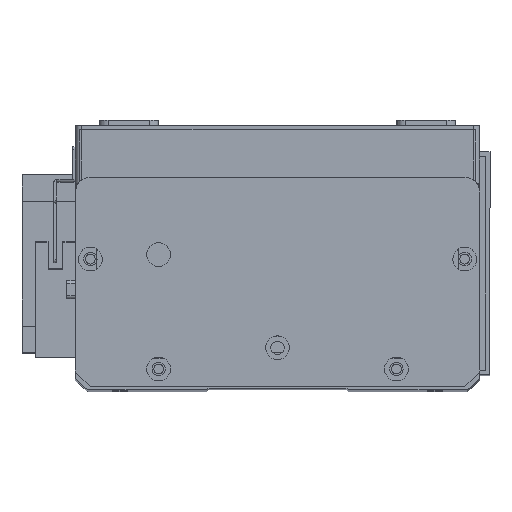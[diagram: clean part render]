
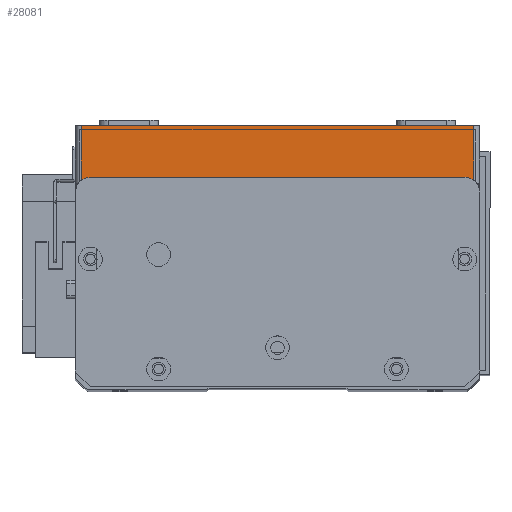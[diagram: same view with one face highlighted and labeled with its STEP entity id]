
A CAD part, top view. The second image highlights one B-rep face of the part: STEP entity #28081.
In plain terms, the highlighted planar face has unit normal (0, 0, 1) as drawn and (0, -1, 0) by its records, which use the part's own axes.
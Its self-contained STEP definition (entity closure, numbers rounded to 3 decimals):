
#1218 = ORIENTED_EDGE ( 'NONE', *, *, #23479, .T. ) ;
#1379 = DIRECTION ( 'NONE',  ( 1., 0., 0. ) ) ;
#2636 = CARTESIAN_POINT ( 'NONE',  ( 0., 0., 0. ) ) ;
#4776 = LINE ( 'NONE', #22121, #27675 ) ;
#4801 = CARTESIAN_POINT ( 'NONE',  ( 2., 0., 0. ) ) ;
#4951 = VERTEX_POINT ( 'NONE', #6929 ) ;
#6192 = LINE ( 'NONE', #2636, #17307 ) ;
#6559 = DIRECTION ( 'NONE',  ( 0., 0., -1. ) ) ;
#6767 = DIRECTION ( 'NONE',  ( 0., 0., 1. ) ) ;
#6929 = CARTESIAN_POINT ( 'NONE',  ( 134., 0., 19.5 ) ) ;
#6970 = DIRECTION ( 'NONE',  ( 1., 0., 0. ) ) ;
#7449 = LINE ( 'NONE', #24158, #24484 ) ;
#8079 = CARTESIAN_POINT ( 'NONE',  ( 134., 0., 0. ) ) ;
#8106 = VECTOR ( 'NONE', #1379, 1000. ) ;
#8876 = CARTESIAN_POINT ( 'NONE',  ( 0., 0., 19.5 ) ) ;
#14606 = CARTESIAN_POINT ( 'NONE',  ( 0., 0., 19.5 ) ) ;
#15048 = VERTEX_POINT ( 'NONE', #8079 ) ;
#16297 = EDGE_CURVE ( 'NONE', #19600, #15048, #6192, .T. ) ;
#17307 = VECTOR ( 'NONE', #6970, 1000. ) ;
#17570 = DIRECTION ( 'NONE',  ( 0., 0., 1. ) ) ;
#17835 = AXIS2_PLACEMENT_3D ( 'NONE', #8876, #20124, #6767 ) ;
#17864 = PLANE ( 'NONE',  #17835 ) ;
#19497 = FACE_OUTER_BOUND ( 'NONE', #23571, .T. ) ;
#19600 = VERTEX_POINT ( 'NONE', #4801 ) ;
#20124 = DIRECTION ( 'NONE',  ( 0., 1., 0. ) ) ;
#22121 = CARTESIAN_POINT ( 'NONE',  ( 2., 0., 19.5 ) ) ;
#22305 = ORIENTED_EDGE ( 'NONE', *, *, #25228, .F. ) ;
#23105 = CARTESIAN_POINT ( 'NONE',  ( 2., 0., 19.5 ) ) ;
#23479 = EDGE_CURVE ( 'NONE', #26406, #19600, #4776, .T. ) ;
#23571 = EDGE_LOOP ( 'NONE', ( #22305, #1218, #25893, #28128 ) ) ;
#24158 = CARTESIAN_POINT ( 'NONE',  ( 134., 0., 19.5 ) ) ;
#24484 = VECTOR ( 'NONE', #17570, 1000. ) ;
#24818 = EDGE_CURVE ( 'NONE', #15048, #4951, #7449, .T. ) ;
#25228 = EDGE_CURVE ( 'NONE', #26406, #4951, #25866, .T. ) ;
#25866 = LINE ( 'NONE', #14606, #8106 ) ;
#25893 = ORIENTED_EDGE ( 'NONE', *, *, #16297, .T. ) ;
#26406 = VERTEX_POINT ( 'NONE', #23105 ) ;
#27675 = VECTOR ( 'NONE', #6559, 1000. ) ;
#28081 = ADVANCED_FACE ( 'NONE', ( #19497 ), #17864, .F. ) ;
#28128 = ORIENTED_EDGE ( 'NONE', *, *, #24818, .T. ) ;
